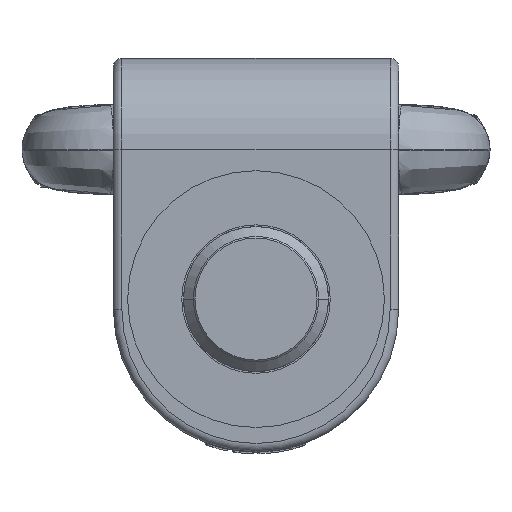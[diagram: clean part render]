
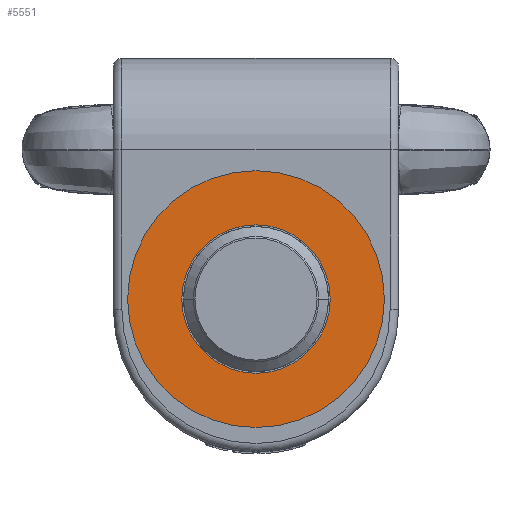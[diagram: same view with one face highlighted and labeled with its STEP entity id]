
A CAD part, front view. The second image highlights one B-rep face of the part: STEP entity #5551.
In plain terms, the highlighted planar face has unit normal (0, -1, 0).
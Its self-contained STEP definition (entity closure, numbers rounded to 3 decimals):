
#5324=CARTESIAN_POINT('',(0.,0.318,0.));
#5325=DIRECTION('',(0.,-1.,0.));
#5326=DIRECTION('',(1.,0.,0.));
#5327=AXIS2_PLACEMENT_3D('',#5324,#5325,#5326);
#5329=CARTESIAN_POINT('',(0.,0.318,0.));
#5330=DIRECTION('',(0.,-1.,0.));
#5331=DIRECTION('',(-1.,0.,0.));
#5332=AXIS2_PLACEMENT_3D('',#5329,#5330,#5331);
#5334=CARTESIAN_POINT('',(0.,0.318,0.));
#5335=DIRECTION('',(0.,1.,0.));
#5336=DIRECTION('',(1.,0.,0.));
#5337=AXIS2_PLACEMENT_3D('',#5334,#5335,#5336);
#5339=CARTESIAN_POINT('',(0.,0.318,0.));
#5340=DIRECTION('',(0.,1.,0.));
#5341=DIRECTION('',(-1.,0.,0.));
#5342=AXIS2_PLACEMENT_3D('',#5339,#5340,#5341);
#5345=CARTESIAN_POINT('',(22.5,0.318,0.));
#5347=VERTEX_POINT('',#5345);
#5348=CARTESIAN_POINT('',(-22.5,0.318,0.));
#5350=VERTEX_POINT('',#5348);
#5369=CARTESIAN_POINT('',(13.,0.318,0.));
#5371=VERTEX_POINT('',#5369);
#5372=CARTESIAN_POINT('',(-13.,0.318,0.));
#5374=VERTEX_POINT('',#5372);
#5538=CARTESIAN_POINT('',(0.,0.318,0.));
#5539=DIRECTION('',(0.,1.,0.));
#5540=DIRECTION('',(-1.,0.,0.));
#5541=AXIS2_PLACEMENT_3D('',#5538,#5539,#5540);
#5542=PLANE('',#5541);
#5543=ORIENTED_EDGE('',*,*,#5531,.F.);
#5544=ORIENTED_EDGE('',*,*,#5520,.F.);
#5545=EDGE_LOOP('',(#5543,#5544));
#5546=FACE_OUTER_BOUND('',#5545,.F.);
#5547=ORIENTED_EDGE('',*,*,#5383,.F.);
#5548=ORIENTED_EDGE('',*,*,#5401,.F.);
#5549=EDGE_LOOP('',(#5547,#5548));
#5550=FACE_BOUND('',#5549,.F.);
#5551=ADVANCED_FACE('',(#5546,#5550),#5542,.F.);
#5328=CIRCLE('',#5327,22.5);
#5333=CIRCLE('',#5332,22.5);
#5338=CIRCLE('',#5337,13.);
#5343=CIRCLE('',#5342,13.);
#5383=EDGE_CURVE('',#5371,#5374,#5338,.T.);
#5401=EDGE_CURVE('',#5374,#5371,#5343,.T.);
#5520=EDGE_CURVE('',#5350,#5347,#5333,.T.);
#5531=EDGE_CURVE('',#5347,#5350,#5328,.T.);
